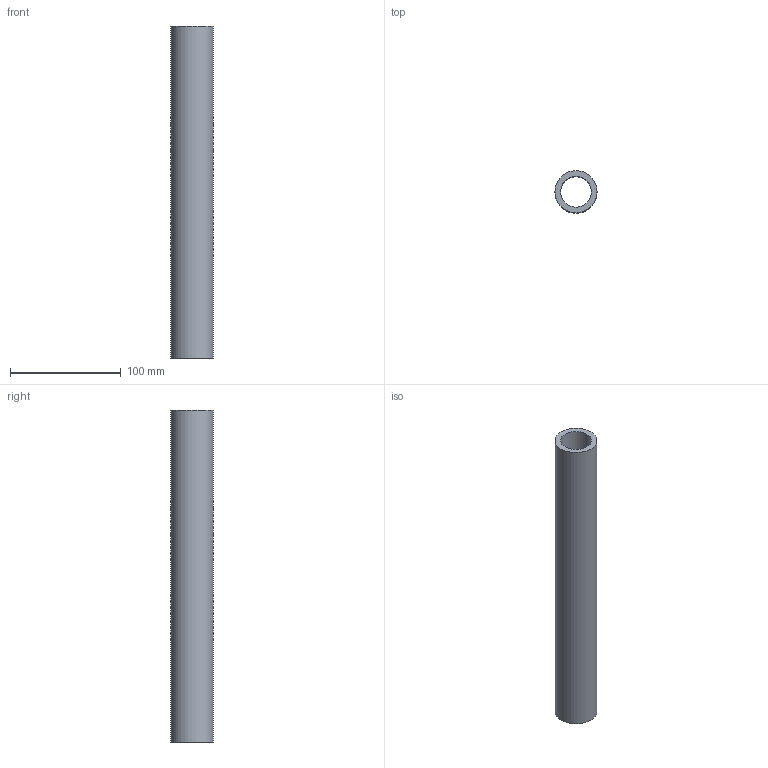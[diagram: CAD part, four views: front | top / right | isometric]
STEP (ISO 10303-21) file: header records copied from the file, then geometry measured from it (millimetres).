
FILE_DESCRIPTION(/* description */ ('RT38x5x300LG - RAIL SPLICE CONNECTOR'),/* implementation_level */ '2;1');
FILE_NAME(/* name */ 'C:\Users\Callum\The Trustee for INKSTONE UNIT TRUST\GRP Australia - Documents\8 Drawings\Handrails\3D Models\Handrail Fittings STEP\MH2-SC RAIL SPLICE CONNECTOR.stp',/* time_stamp */ '2022-09-15T10:19:54+10:00',/* author */ ('Callum'),/* organization */ (''),/* preprocessor_version */ 'ST-DEVELOPER v18.1',/* originating_system */ 'Autodesk Inventor 2022',/* authorisation */ '');
FILE_SCHEMA (('AUTOMOTIVE_DESIGN { 1 0 10303 214 3 1 1 }'));
Length unit declared in the file: millimetre
Products named in the file (1): MH2-SC
Bounding box: 38 x 38 x 300 mm (x, y, z)
Volume: 155508.8 mm3; surface area: 63240.3 mm2
Topology: 1 solids, 1 shells, 4 faces, 6 edges, 4 vertices
Faces by surface type: plane 2, cylinder 2
Full cylindrical faces by diameter (mm): 28 x1, 38 x1
Entity records: 141 total; most frequent: DIRECTION 20, CARTESIAN_POINT 15, ORIENTED_EDGE 12, AXIS2_PLACEMENT_3D 9, EDGE_LOOP 6, EDGE_CURVE 6, FACE_OUTER_BOUND 4, CIRCLE 4
